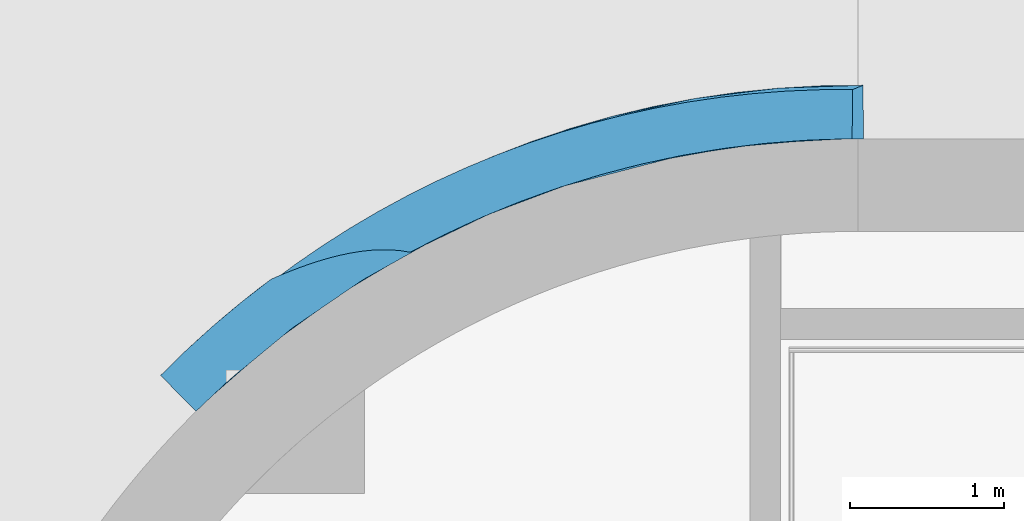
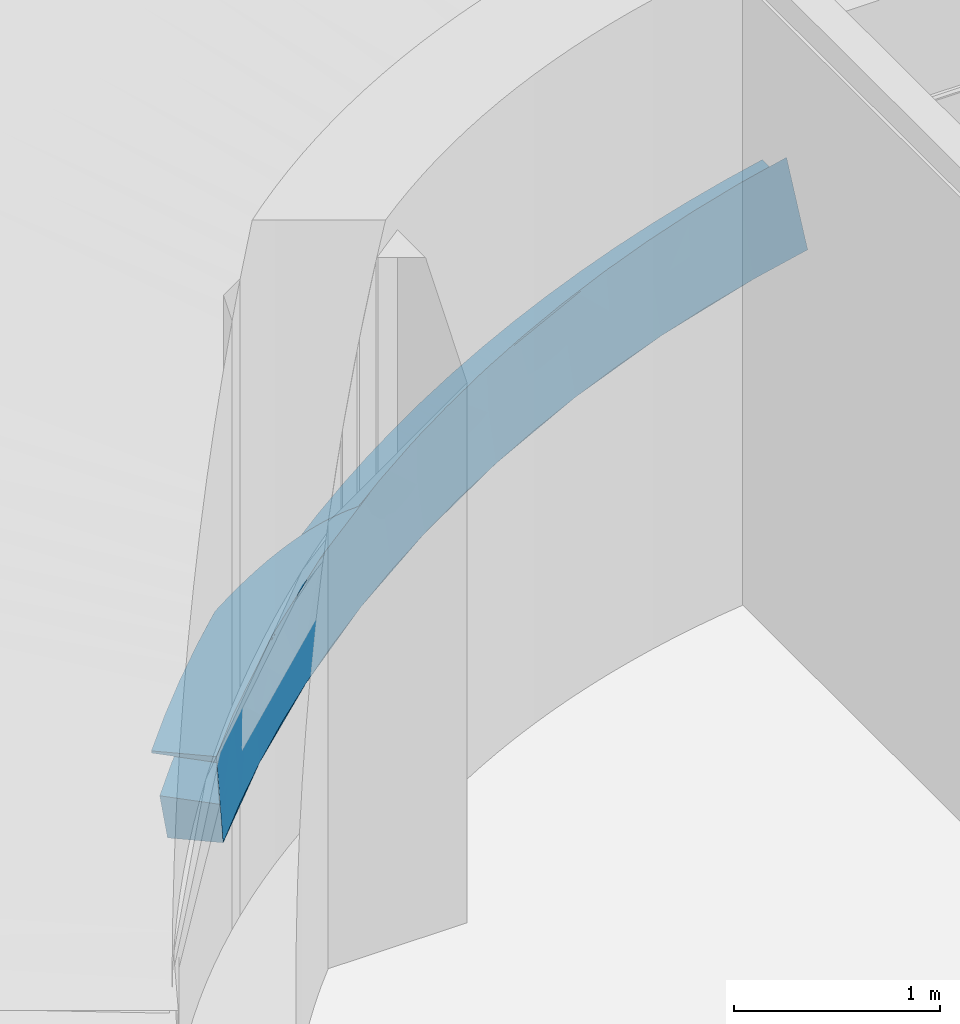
# One storey, part 18 of 30: 1 beam.
"""IFC2X3 building model written with IfcOpenShell, lengths in millimetres."""

from ifc_helpers import new_model, entity, si_unit, converted_unit, derived_unit, direction, frame, origin, place, context, subcontext, project, spatial, face_set, surface_model, material, material_list, type_object, element, save


model = new_model("IFC2X3")

# Units and contexts
model_context = context("Model", 3, precision=0.01, world=origin(), true_north=direction((6.123031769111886e-17, 1.0)))
body_context = subcontext(model_context, "Body", "Model", "MODEL_VIEW")
ifc_project = project(units=[si_unit("LENGTHUNIT", "METRE", prefix="MILLI"), si_unit("AREAUNIT", "SQUARE_METRE"), si_unit("VOLUMEUNIT", "CUBIC_METRE"), converted_unit("PLANEANGLEUNIT", "DEGREE", entity("IfcRatioMeasure", 0.017453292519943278), si_unit("PLANEANGLEUNIT", "RADIAN"), dimensions=[0, 0, 0, 0, 0, 0, 0]), si_unit("MASSUNIT", "GRAM", prefix="KILO"), derived_unit("MASSDENSITYUNIT", [(si_unit("MASSUNIT", "GRAM", prefix="KILO"), 1), (si_unit("LENGTHUNIT", "METRE"), -3)]), derived_unit("MOMENTOFINERTIAUNIT", [(si_unit("LENGTHUNIT", "METRE"), 4)]), si_unit("TIMEUNIT", "SECOND"), si_unit("FREQUENCYUNIT", "HERTZ"), si_unit("THERMODYNAMICTEMPERATUREUNIT", "DEGREE_CELSIUS"), derived_unit("THERMALTRANSMITTANCEUNIT", [(si_unit("MASSUNIT", "GRAM", prefix="KILO"), 1), (si_unit("THERMODYNAMICTEMPERATUREUNIT", "KELVIN"), -1), (si_unit("TIMEUNIT", "SECOND"), -3)]), derived_unit("VOLUMETRICFLOWRATEUNIT", [(si_unit("LENGTHUNIT", "METRE"), 3), (si_unit("TIMEUNIT", "SECOND"), -1)]), derived_unit("MASSFLOWRATEUNIT", [(si_unit("MASSUNIT", "GRAM", prefix="KILO"), 1), (si_unit("TIMEUNIT", "SECOND"), -1)]), derived_unit("ROTATIONALFREQUENCYUNIT", [(si_unit("TIMEUNIT", "SECOND"), -1)]), si_unit("ELECTRICCURRENTUNIT", "AMPERE"), si_unit("ELECTRICVOLTAGEUNIT", "VOLT"), si_unit("POWERUNIT", "WATT"), si_unit("FORCEUNIT", "NEWTON", prefix="KILO"), si_unit("ILLUMINANCEUNIT", "LUX"), si_unit("LUMINOUSFLUXUNIT", "LUMEN"), si_unit("LUMINOUSINTENSITYUNIT", "CANDELA"), derived_unit("USERDEFINED", [(si_unit("MASSUNIT", "GRAM", prefix="KILO"), -1), (si_unit("LENGTHUNIT", "METRE"), -2), (si_unit("TIMEUNIT", "SECOND"), 3), (si_unit("LUMINOUSFLUXUNIT", "LUMEN"), 1)]), derived_unit("SOUNDPOWERUNIT", [(si_unit("MASSUNIT", "GRAM", prefix="KILO"), 1), (si_unit("LENGTHUNIT", "METRE"), 2), (si_unit("TIMEUNIT", "SECOND"), -3)]), derived_unit("SOUNDPRESSUREUNIT", [(si_unit("MASSUNIT", "GRAM", prefix="KILO"), 1), (si_unit("LENGTHUNIT", "METRE"), -1), (si_unit("TIMEUNIT", "SECOND"), -2)]), derived_unit("LINEARVELOCITYUNIT", [(si_unit("LENGTHUNIT", "METRE"), 1), (si_unit("TIMEUNIT", "SECOND"), -1)]), si_unit("PRESSUREUNIT", "PASCAL"), derived_unit("USERDEFINED", [(si_unit("LENGTHUNIT", "METRE"), -2), (si_unit("MASSUNIT", "GRAM", prefix="KILO"), 1), (si_unit("TIMEUNIT", "SECOND"), -2)]), derived_unit("LINEARFORCEUNIT", [(si_unit("MASSUNIT", "GRAM", prefix="KILO"), 1), (si_unit("LENGTHUNIT", "METRE"), 1), (si_unit("TIMEUNIT", "SECOND"), -2), (si_unit("LENGTHUNIT", "METRE"), -1)]), derived_unit("PLANARFORCEUNIT", [(si_unit("MASSUNIT", "GRAM", prefix="KILO"), 1), (si_unit("LENGTHUNIT", "METRE"), 1), (si_unit("TIMEUNIT", "SECOND"), -2), (si_unit("LENGTHUNIT", "METRE"), -2)])], contexts=[model_context])

# Site, building, storey
site_placement = place(None, frame((-14167.972527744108, -657.2125860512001, 0.0)))
site = spatial("IfcSite", under=ifc_project, at=site_placement, Name="Default", CompositionType="ELEMENT")
building_placement = place(site_placement, origin())
building = spatial("IfcBuilding", under=site, at=building_placement, Name="Sample Building", CompositionType="ELEMENT")
storey_placement = place(building_placement, frame((0.0, 0.0, -10100.0)))
storey = spatial("IfcBuildingStorey", under=building, at=storey_placement, Name="지하2층", CompositionType="ELEMENT", Elevation=-10100.0)

# Beam
ifc_material = material(Name="KBIMS-콘크리트")
ifc_material_list = material_list([ifc_material, ifc_material])
beam_type = type_object("IfcBeamType", Name="BM111-철근콘크리트구조 보:BM110-철근 콘크리트구조 보_600 x 600_RAWG1", PredefinedType="BEAM", material=ifc_material_list)
beam_placement = place(storey_placement, frame((26243.005463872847, 27488.430430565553, 587.5267448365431), z_axis=(-0.19782992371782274, -0.08171122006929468, 0.9768247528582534), x_axis=(0.9802024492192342, -0.008201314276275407, 0.1978279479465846)))
element("IfcBeam", 1, at=beam_placement, inside=storey, type_object=beam_type, material=ifc_material, Name="BM111-철근콘크리트구조 보:BM110-철근 콘크리트구조 보_600 x 600_RAWG1", ObjectType="BM111-철근콘크리트구조 보:BM110-철근 콘크리트구조 보_600 x 600_RAWG1", context=body_context, shape_type="SurfaceModel", body=[
    surface_model("IfcFaceBasedSurfaceModel", [(115.89844163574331, 282.15257900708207, 554.5578061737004), (348.1741577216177, 49.93301144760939, 554.5578061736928), (331.0909516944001, 67.01208791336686, 254.54883192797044), (314.4205876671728, 83.6784221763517, -45.44219382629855), (115.89844163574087, 282.15257900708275, -45.442193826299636), (115.89844163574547, 282.1525790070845, 245.3746390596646), (169.19216849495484, 228.8717349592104, 239.53700427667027), (222.48651559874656, 175.59027081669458, 233.71070168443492), (275.78150321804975, 122.30816631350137, 227.89612493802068), (329.07714801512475, 69.02540479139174, 222.09368662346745), (337.2957603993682, 60.808779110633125, 367.6853974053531), (345.61146044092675, 52.495089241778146, 513.2787551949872), (299.6681853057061, 98.42725840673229, 518.4195493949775), (253.72524689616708, 144.3590909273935, 523.5666650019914), (207.78264967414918, 190.2905823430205, 528.7199145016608), (161.84038426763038, 236.22174202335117, 533.8791191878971), (115.8984416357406, 282.15257900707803, 539.0441072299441), (4658.274906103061, 2158.4539537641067, -45.44219382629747), (4658.274906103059, 2158.4539537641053, 298.5076997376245), (4657.6122164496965, 1839.953127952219, 324.1105561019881), (4657.631481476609, 1849.2122539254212, 439.33503170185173), (4657.650567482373, 1858.3853390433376, 554.5578061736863), (4657.649737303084, 1857.9863396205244, 554.5578061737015), (4657.614358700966, 1840.9827332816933, 341.812800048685), (4657.578370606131, 1823.6861935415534, 129.0666428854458), (4657.548600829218, 1809.3782916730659, -45.442193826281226), (850.834522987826, 913.5938636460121, 554.5578061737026), (658.2662295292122, 766.2864962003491, 554.5578061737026), (471.41091806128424, 611.7952236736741, 554.5578061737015), (290.53704002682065, 450.34192167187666, 554.5578061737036), (553.6039935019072, 241.5263315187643, 554.5578061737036), (989.3043099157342, 596.8422907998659, 554.5578061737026), (1455.143103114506, 912.6196211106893, 554.5578061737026), (1947.329482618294, 1186.2885981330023, 554.5578061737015), (2461.8581472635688, 1415.6221657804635, 554.5578061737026), (2994.541979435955, 1598.7540594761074, 554.5578061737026), (3541.0461188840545, 1734.193993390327, 554.5578061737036), (4096.923238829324, 1820.8397880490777, 554.5578061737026), (4384.857520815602, 1846.5486968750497, 554.5578061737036), (3841.570810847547, 1787.6904968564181, 554.5578061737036), (3304.8273307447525, 1682.3336586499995, 554.5578061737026), (2778.753127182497, 1531.2880798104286, 554.5578061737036), (2267.392230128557, 1335.7148757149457, 554.5578061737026), (1774.6755656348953, 1097.1174538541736, 554.5578061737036), (1707.194760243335, 1107.2957627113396, 554.5578061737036), (1639.0951944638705, 1111.9473377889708, 554.5578061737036), (1570.8327758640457, 1111.6072272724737, 554.5578061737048), (1502.7335989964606, 1106.865971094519, 554.5578061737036), (1435.0100235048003, 1098.297763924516, 554.5578061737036), (1367.789175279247, 1086.4218160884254, 554.5578061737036), (1301.137471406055, 1071.6876952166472, 554.5578061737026), (1235.0807853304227, 1054.4747630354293, 554.5578061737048), (1169.6241511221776, 1035.100026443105, 554.5578061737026), (1104.7585259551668, 1013.8265035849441, 554.5578061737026), (1040.4674019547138, 990.8722544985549, 554.5578061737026), (976.7306042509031, 966.4185792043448, 554.5578061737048), (913.5267211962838, 940.6168165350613, 554.5578061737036), (3542.898710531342, 2062.934805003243, -45.44250696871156), (3783.7389964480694, 2100.298237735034, 283.90480182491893), (4098.4953875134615, 2135.1125326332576, -45.44217082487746), (4439.036193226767, 2155.1560818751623, 294.0232745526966), (3351.46424079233, 2026.4847192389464, 279.4082935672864), (2995.7353513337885, 1942.475440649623, -45.44240166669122), (2461.19539085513, 1774.6532017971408, -45.44242765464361), (2301.6423479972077, 1714.3637620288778, 272.7671212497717), (2507.0847550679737, 1791.10229239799, 273.8078573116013), (2098.946139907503, 1630.6381833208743, 271.750554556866), (2715.033101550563, 1860.7610007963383, 274.9321571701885), (2925.244887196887, 1923.2564503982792, 276.1996831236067), (4001.5104242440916, 2126.062430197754, 286.7741917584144), (4220.0294215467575, 2144.35462633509, 290.12915367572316), (3137.473283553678, 1978.5192903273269, 277.67158112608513), (3566.9725585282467, 2067.0924001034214, 281.4669068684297), (973.5431699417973, 1001.6202708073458, -45.44237550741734), (1134.8895648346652, 1110.8894253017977, 264.9585396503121), (1446.2138116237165, 1302.4203638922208, -45.44186739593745), (1702.7485134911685, 1442.6178240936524, 269.5509936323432), (1943.3654897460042, 1560.757102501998, -45.44187825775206), (776.5353939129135, 858.1217664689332, 260.3553552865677), (528.9696117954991, 660.6616917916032, -45.44189005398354), (273.55073955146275, 434.5346312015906, 249.98452519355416), (436.33801369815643, 581.4392890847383, 253.97920443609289), (604.0642395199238, 722.6923177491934, 257.4172631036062), (1509.709418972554, 1338.5459663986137, 268.25155430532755), (1899.2385356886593, 1540.020581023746, 270.6975448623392), (953.5456741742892, 987.5742249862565, 262.8497793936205), (1320.3498667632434, 1227.9280049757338, 266.73966247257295), (318.2932578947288, 475.9266330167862, -45.44219382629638), (747.5264032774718, 836.005511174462, -45.44219382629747), (1206.5877095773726, 1157.1917634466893, -45.44219382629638), (1691.9638417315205, 1437.0272542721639, -45.44219382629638), (2199.940069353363, 1673.3703179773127, -45.44219382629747), (2726.6286966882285, 1864.4121495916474, -45.4421938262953), (3267.9988163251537, 2008.6906481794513, -45.44219382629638), (3819.907158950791, 2105.101606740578, -45.44219382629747), (4378.12980304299, 2152.907163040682, -45.44219382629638), (4622.236591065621, 1809.087705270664, -45.44219382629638), (4343.54516080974, 1800.6568786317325, -45.44219382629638), (3788.0906887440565, 1747.0602550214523, -45.44219382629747), (3238.9160704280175, 1644.8826644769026, -45.44219382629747), (2700.424531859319, 1494.9433564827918, -45.44219382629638), (2176.9336431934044, 1298.4445290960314, -45.44219382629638), (1672.6407009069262, 1056.961689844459, -45.44219382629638), (1191.5890743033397, 772.4310234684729, -45.44219382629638), (737.635786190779, 447.1338677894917, -45.44219382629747), (3539.1218381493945, 1722.8918463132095, 295.2953053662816), (3264.0229256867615, 1663.260912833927, 289.71617734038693), (3373.779479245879, 1688.4096305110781, 554.5576901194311), (3572.12143149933, 1740.7822363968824, 554.5581314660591), (3842.388656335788, 1781.8747606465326, 554.5582452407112), (2977.095708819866, 1583.6621486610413, 554.5575653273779), (3175.4376610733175, 1636.0347545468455, 554.5580066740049), (2991.7529546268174, 1591.6577498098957, 284.56506643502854), (2457.8358099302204, 1413.0918347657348, 275.069497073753), (2197.245716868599, 1306.479539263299, 270.4822349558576), (1941.573556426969, 1188.5798177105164, 265.84263741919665), (2021.0330935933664, 1216.416583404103, 554.557975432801), (2722.8465740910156, 1508.214686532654, 279.72321992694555), (2523.0727999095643, 1433.5007764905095, 554.5580480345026), (4376.265720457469, 1829.027982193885, 315.72161271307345), (4385.153065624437, 1840.677229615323, 554.5577802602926), (4112.6557470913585, 1822.9695549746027, 554.5576011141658), (3816.5242766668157, 1770.4460986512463, 301.41878655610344), (4095.738462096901, 1805.8442847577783, 308.19226251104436), (1127.1984140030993, 697.9076766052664, 539.9029700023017), (1208.8915344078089, 769.5403129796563, 250.43700409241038), (977.6575003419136, 608.979745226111, 244.41694344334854), (1337.7210649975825, 839.4398855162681, 545.1543301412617), (1446.9267457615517, 919.8499009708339, 255.93662828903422), (753.6598099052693, 438.4797963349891, 237.76284428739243), (922.4116337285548, 548.2005904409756, 534.1744353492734), (531.3159790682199, 225.23598053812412, 520.9452993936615), (537.3287458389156, 258.3775487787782, 230.35936660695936), (723.6822816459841, 390.5592335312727, 527.8828808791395), (1691.3076077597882, 1059.6203995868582, 261.0333619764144), (1553.6574934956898, 972.579643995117, 550.0107572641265), (1179.827405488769, 733.2895961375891, 541.2163920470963), (471.5396207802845, 611.6077582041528, 548.0845772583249), (675.5900643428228, 349.23013945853, 526.1481740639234), (1391.7051146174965, 872.7248013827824, 546.3681529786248), (484.8892103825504, 182.05067912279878, 519.0285840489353), (231.76250460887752, 394.8389748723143, 542.3708500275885), (438.4625567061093, 138.86542521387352, 517.1124365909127), (512.4079020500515, 646.7196482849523, 548.9355339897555), (773.3652422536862, 429.9701711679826, 529.455890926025), (595.3174256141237, 715.5637334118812, 550.5111496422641), (553.8625967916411, 681.1428258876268, 549.7229628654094), (764.5543697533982, 849.018983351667, 553.3159551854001), (973.608391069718, 585.6268063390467, 535.6069004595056), (807.6942318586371, 881.307359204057, 553.9365217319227), (1024.805033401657, 623.0529747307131, 537.038797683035), (627.4979811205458, 307.8987753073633, 524.4142251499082), (430.67135858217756, 576.4935505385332, 547.2338105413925), (390.39868525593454, 540.6975548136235, 546.3176736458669), (1285.0897941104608, 804.057984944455, 543.8413681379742), (1604.9629855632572, 1111.7779294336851, 554.5581957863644), (1647.647999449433, 1025.542357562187, 551.944414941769), (1076.0017716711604, 660.4815082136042, 538.4710727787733), (1730.5934824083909, 1103.7654275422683, 554.5576509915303), (1727.0401230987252, 1070.2753599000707, 553.5777450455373), (1600.6526985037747, 999.0598182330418, 550.9773971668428), (350.1282913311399, 504.90154012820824, 545.401076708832), (579.4057828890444, 266.56736364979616, 522.6797083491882), (192.71928090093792, 357.7091142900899, 541.3125461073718), (1499.6733288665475, 939.2946806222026, 548.7963665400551), (1445.6892792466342, 906.0097647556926, 547.582543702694), (270.8034679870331, 431.9665368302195, 543.4298040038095), (1232.4586573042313, 768.6738142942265, 542.5291640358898), (637.3452209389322, 749.282184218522, 551.2402767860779), (872.7287881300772, 508.78970031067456, 532.6019931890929), (679.3729971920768, 783.0029526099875, 551.9692139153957), (143.19957910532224, 309.0056272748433, 539.8500006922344), (398.9773656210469, 102.13532724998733, 515.4817172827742), (823.0458084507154, 469.3810802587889, 531.0287931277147), (1742.919045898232, 1079.2224390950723, 553.9045082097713), (310.4669523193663, 468.43516403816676, 544.414831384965), (1711.1613153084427, 1061.3283282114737, 553.2515497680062), (1673.1446387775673, 1109.6206870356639, 554.5582191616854), (721.9625342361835, 816.0121362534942, 552.6427195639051), (1679.4057300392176, 1043.4364684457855, 552.5973733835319), (4306.133925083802, 1823.2332285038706, 313.83932212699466), (4274.780602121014, 2147.055018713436, 291.10308284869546), (3297.9664392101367, 2014.4939176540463, 278.97378401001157), (3332.798803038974, 1678.1674779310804, 291.11082433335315), (3401.572381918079, 1693.0763795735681, 292.50574135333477), (3244.4687717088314, 2002.5008459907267, 278.54003235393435), (4236.00203377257, 1817.4361097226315, 311.956653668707), (4165.399174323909, 2139.783355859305, 289.2908116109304), (4165.870238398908, 1811.641356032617, 310.07436308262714), (4585.035183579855, 1837.1339818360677, 321.9466338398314), (4548.656853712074, 2156.804308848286, 296.2652599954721), (4516.939843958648, 1834.491434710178, 319.91552562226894), (4110.768831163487, 2135.2097202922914, 288.4520916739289), (4582.02447071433, 2157.307566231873, 296.94835711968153), (4657.876625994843, 1967.35557683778, 313.88302951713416), (921.6569667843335, 566.3547793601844, 242.75379064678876), (690.2998167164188, 790.4070421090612, 258.8863091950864), (865.658597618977, 523.7297470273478, 241.08960992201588), (3886.3277942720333, 1779.2956333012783, 303.1120135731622), (3838.1824567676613, 2106.7387135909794, 284.6222237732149), (3677.8219847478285, 1746.6678469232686, 298.35765493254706), (3621.1630905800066, 2075.393313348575, 282.0769420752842), (2767.585999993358, 1876.383680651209, 275.24884972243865), (2857.298691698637, 1549.9350926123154, 282.1447521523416), (2924.5258231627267, 1570.7964212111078, 283.35490929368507), (820.7890749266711, 890.4848597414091, 260.97858932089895), (3059.820428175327, 1609.5573698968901, 285.8527971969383), (3127.8878826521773, 1627.4593075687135, 287.1403379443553), (3031.359142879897, 1950.8878941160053, 276.9359160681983), (3190.9710851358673, 1990.5100919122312, 278.10609068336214), (645.4931956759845, 348.42870579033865, 234.0616194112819), (478.27020227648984, 616.7519858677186, 254.8389355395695), (1273.9848248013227, 1198.667792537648, 266.29457124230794), (1227.6197828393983, 1169.4075800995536, 265.8494800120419), (3470.3459798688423, 1707.9829636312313, 293.9008483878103), (3459.2184667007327, 2046.7874246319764, 280.43797916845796), (3405.3424454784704, 2036.6348799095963, 279.92271741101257), (3729.5461849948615, 2091.9973434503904, 283.295226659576), (3747.1742704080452, 1758.5569633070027, 299.88799072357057), (865.0404765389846, 922.8479719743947, 261.60228339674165), (1035.4654150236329, 649.1193006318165, 245.92197914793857), (699.5753630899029, 393.4542605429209, 235.91246187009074), (2559.071219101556, 1808.516371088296, 274.0888108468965), (2656.593907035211, 1484.4345648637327, 278.5598836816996), (4384.285127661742, 2152.455737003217, 293.0499132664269), (4446.602782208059, 1831.759708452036, 317.81856916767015), (3608.471978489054, 1734.7787115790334, 296.8268591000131), (3513.0943729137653, 2056.9399218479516, 280.9526730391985), (1850.1160349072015, 1515.6693123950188, 270.41095455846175), (2005.4909979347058, 1218.0547409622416, 267.00250984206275), (1800.9935150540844, 1491.320361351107, 270.1241742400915), (4658.142442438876, 2094.7546893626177, 303.637068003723), (4658.0088640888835, 2031.0541738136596, 308.76264533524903), (4657.745881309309, 1903.6543107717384, 318.9991684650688), (909.2941575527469, 955.2110652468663, 262.2255174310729), (1093.2756091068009, 689.2588370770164, 247.42655481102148), (4329.533947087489, 2149.7553446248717, 292.07598409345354), (2872.691988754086, 1907.6337705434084, 275.8829905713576), (170.59047064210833, 335.0163752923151, 246.9737163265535), (382.7985472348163, 117.87076436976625, 224.22568282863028), (4025.9349444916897, 1796.9947501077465, 306.4990354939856), (3084.4151310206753, 1964.7036254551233, 277.30426256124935), (354.94442459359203, 507.98814268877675, 251.98205375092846), (591.4109132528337, 303.4031035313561, 232.2102090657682), (1268.4003467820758, 807.1165511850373, 251.81200514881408), (1044.2164222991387, 1049.2318108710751, 263.90410559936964), (1089.5530510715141, 1080.0606418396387, 264.43160656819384), (1753.875780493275, 1091.8596486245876, 262.23524133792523), (1557.970902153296, 1364.563916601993, 268.57606910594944), (3675.35578702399, 2083.6941601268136, 282.68594935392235), (2790.071445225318, 1529.0737165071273, 280.9340271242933), (2663.046541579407, 1843.344557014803, 274.6508257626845), (2590.3412399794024, 1460.6544431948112, 277.39654743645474), (2455.7235882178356, 1771.9170851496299, 273.5478358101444), (2392.6871326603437, 1386.440508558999, 273.9227690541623), (2820.1389943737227, 1892.0087255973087, 275.5659201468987), (2353.0035148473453, 1733.548969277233, 273.0271427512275), (1949.1654319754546, 1562.6755609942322, 270.9607497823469), (2069.408439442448, 1247.5296642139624, 268.16238226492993), (1606.2301059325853, 1390.5818857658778, 268.9010439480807), (1654.4893097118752, 1416.5998549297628, 269.2260187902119), (2262.3920956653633, 1333.133202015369, 271.6292330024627), (2149.6207905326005, 1651.5695851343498, 272.0047231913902), (2250.9678123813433, 1693.4324077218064, 272.51352050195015), (1879.0076821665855, 1156.3382321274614, 264.6404880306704), (1751.8710142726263, 1466.9690927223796, 269.8375839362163), (2133.325880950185, 1277.0045874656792, 269.32225468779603), (1999.092347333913, 1585.328223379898, 271.22414471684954), (1508.0209125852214, 954.7919913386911, 257.2115151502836), (1367.6892855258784, 1255.580797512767, 267.118318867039), (998.8821879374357, 1018.403008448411, 263.37671247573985), (1151.083504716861, 729.4007100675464, 248.9314005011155), (562.1321659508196, 687.3796684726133, 256.55809988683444), (647.1832348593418, 756.5485354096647, 258.15193507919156), (809.6580640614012, 481.1047811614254, 239.42645712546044), (1387.417952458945, 882.2713451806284, 254.5618172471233), (1181.254721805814, 1140.149685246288, 265.40419876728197), (1327.909140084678, 844.6951069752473, 253.18681619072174), (194.72453798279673, 358.34469985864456, 247.6792763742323), (314.2487313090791, 471.26021867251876, 250.98315445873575), (485.2645135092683, 211.03863910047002, 228.2933721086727), (1462.3701342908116, 1310.89090378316, 267.87365581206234), (1415.0308496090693, 1283.2358411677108, 267.4957573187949), (1630.2135750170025, 1024.6760391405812, 259.7592330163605), (1569.117243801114, 989.7340152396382, 258.48537408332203), (2978.303154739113, 1937.0721627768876, 276.5675695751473), (2049.019243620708, 1607.9832033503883, 271.48734963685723), (234.1387784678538, 396.43965604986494, 248.83167076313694), (433.20254150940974, 163.7020280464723, 226.22672755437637), (3947.0669639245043, 2119.621954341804, 286.0567698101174), (3956.1314268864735, 1788.1452154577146, 304.8058084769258), (520.2022758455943, 652.0646351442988, 255.6980987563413), (733.4186779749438, 824.2655298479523, 259.6202232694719), (2327.5407538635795, 1359.7868458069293, 272.7757710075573), (2200.295441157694, 1672.500986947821, 272.2588918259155), (1816.441673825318, 1124.0989166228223, 263.4375807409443), (4056.1407674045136, 2130.636065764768, 287.6129116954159), (395.64002194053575, 544.7137016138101, 252.98057517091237), (4493.846571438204, 2155.9813779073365, 295.1444562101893), (3892.623503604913, 2113.1814784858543, 285.3393478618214), (2611.06007754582, 1825.9304783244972, 274.36987222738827), (3195.9554712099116, 1645.358975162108, 288.42863659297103), (2524.088572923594, 1436.874321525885, 276.2332111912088), (2404.3624213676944, 1752.7318779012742, 273.2878143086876), (115.89801711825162, 282.1524276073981, 542.4030843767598), (781.4816873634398, 860.5417341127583, 554.5581884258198), (790.8673324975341, 868.7124434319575, 553.6944620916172), (115.89747084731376, 282.1525014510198, 545.7622305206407), (4065.3096196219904, 1779.9670261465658, -45.442228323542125), (411.069385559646, 108.59327371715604, 554.5579773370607), (4376.964429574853, 1845.6288401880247, 554.5580598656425), (2436.5386697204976, 1402.4233117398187, -45.44243906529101), (2726.1982307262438, 1513.065556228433, 554.5579656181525), (2968.0622418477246, 1575.8160529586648, -45.44215071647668), (3266.3433058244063, 1672.512957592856, 554.5578919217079), (3512.4406718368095, 1702.0018392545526, -45.44180208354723), (3818.0935244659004, 1783.6698201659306, 554.5582162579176), (1698.1877610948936, 1054.8653817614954, 554.5579909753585), (1428.963793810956, 919.9427662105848, -45.44245610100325), (1922.130588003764, 1183.2143696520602, -45.44225837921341), (2202.057897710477, 1306.6214330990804, 554.5578566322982), (521.9668939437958, 270.0015207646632, -45.441798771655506), (960.9918773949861, 614.7224321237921, -45.4421282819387), (767.4588773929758, 423.9530203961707, 554.5580129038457), (1218.687676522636, 759.8424350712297, 554.5580301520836), (473.96588603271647, 167.25254709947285, 554.558049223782)], [face_set([[[0, 1, 2, 3, 4, 5, 6, 7, 8, 9, 10, 11, 12, 13, 14, 15, 16]], [[17, 18, 19, 20, 21, 22, 23, 24, 25]], [[26, 27, 28, 29, 0, 1, 30, 31, 32, 33, 34, 35, 36, 37, 22, 21, 38, 39, 40, 41, 42, 43, 44, 45, 46, 47, 48, 49, 50, 51, 52, 53, 54, 55, 56]], [[57, 58, 59]], [[59, 60, 17]], [[61, 57, 62]], [[63, 64, 65]], [[64, 63, 66]], [[65, 67, 63]], [[63, 67, 62]], [[62, 67, 68]], [[69, 70, 59]], [[60, 18, 17]], [[70, 60, 59]], [[68, 71, 62]], [[72, 58, 57]], [[61, 72, 57]], [[71, 61, 62]], [[69, 59, 58]], [[73, 74, 75]], [[75, 76, 77]], [[78, 73, 79]], [[4, 5, 80]], [[81, 79, 80]], [[80, 79, 4]], [[79, 81, 82]], [[83, 76, 75]], [[76, 84, 77]], [[84, 66, 77]], [[78, 85, 73]], [[74, 86, 75]], [[73, 85, 74]], [[86, 83, 75]], [[79, 82, 78]], [[77, 66, 63]], [[4, 87, 79, 88, 73, 89, 75, 90, 77, 91, 63, 92, 62, 93, 57, 94, 59, 95, 17, 25, 96, 97, 98, 99, 100, 101, 102, 103, 104, 3]], [[105, 106, 107]], [[108, 109, 105]], [[110, 111, 112]], [[113, 114, 42]], [[115, 43, 116]], [[117, 41, 110]], [[118, 117, 113]], [[115, 116, 114]], [[113, 42, 118]], [[41, 117, 118]], [[19, 119, 20]], [[21, 20, 119]], [[119, 120, 21]], [[109, 121, 122]], [[105, 107, 108]], [[121, 123, 122]], [[121, 120, 123]], [[124, 125, 126]], [[125, 127, 128]], [[117, 110, 112]], [[129, 130, 126]], [[131, 132, 9]], [[131, 9, 10]], [[129, 132, 133]], [[11, 131, 10]], [[115, 134, 43]], [[105, 109, 122]], [[135, 43, 134]], [[128, 135, 134]], [[116, 42, 114]], [[130, 129, 133]], [[112, 111, 106]], [[135, 128, 127]], [[127, 125, 124]], [[123, 120, 119]], [[106, 111, 107]], [[124, 126, 130]], [[132, 131, 133]], [[136, 55, 124]], [[133, 137, 138]], [[51, 139, 50]], [[140, 141, 142]], [[127, 51, 52]], [[143, 137, 133]], [[144, 145, 146]], [[147, 148, 149]], [[55, 136, 54]], [[150, 149, 148]], [[151, 152, 153]], [[154, 127, 52]], [[124, 55, 56]], [[155, 46, 156]], [[157, 124, 56]], [[158, 44, 159]], [[147, 130, 148]], [[46, 160, 156]], [[161, 131, 162]], [[47, 48, 135]], [[141, 163, 142]], [[164, 49, 165]], [[164, 135, 48]], [[146, 143, 133]], [[150, 26, 149]], [[53, 154, 52]], [[135, 160, 47]], [[140, 131, 166]], [[161, 162, 153]], [[146, 133, 144]], [[141, 140, 166]], [[154, 53, 167]], [[136, 167, 54]], [[168, 169, 170]], [[163, 171, 172]], [[139, 165, 50]], [[173, 168, 145]], [[152, 151, 138]], [[171, 16, 15]], [[151, 153, 162]], [[156, 45, 155]], [[174, 43, 158]], [[161, 175, 131]], [[176, 44, 177]], [[130, 147, 178]], [[139, 51, 127]], [[172, 142, 163]], [[176, 177, 179]], [[178, 170, 130]], [[54, 167, 53]], [[131, 175, 166]], [[137, 152, 138]], [[50, 165, 49]], [[159, 174, 158]], [[171, 13, 172]], [[12, 11, 172]], [[157, 26, 150]], [[49, 164, 48]], [[47, 160, 46]], [[45, 156, 179]], [[14, 171, 15]], [[171, 14, 13]], [[179, 177, 45]], [[44, 176, 159]], [[26, 157, 56]], [[173, 145, 144]], [[12, 172, 13]], [[169, 168, 173]], [[169, 130, 170]], [[180, 181, 70]], [[182, 183, 184]], [[185, 183, 182]], [[186, 187, 188]], [[189, 190, 191]], [[123, 188, 192]], [[193, 189, 194]], [[195, 196, 197]], [[198, 199, 58]], [[200, 201, 72]], [[202, 203, 204]], [[78, 205, 126]], [[67, 203, 202]], [[206, 207, 208]], [[209, 106, 185]], [[210, 81, 211]], [[212, 213, 128, 86]], [[214, 215, 216]], [[122, 217, 218]], [[205, 219, 220]], [[221, 210, 211]], [[117, 222, 223]], [[193, 190, 189]], [[224, 225, 60]], [[226, 227, 105]], [[228, 115, 229]], [[228, 230, 115]], [[231, 193, 232]], [[233, 189, 19]], [[219, 234, 235]], [[180, 236, 181]], [[112, 237, 204]], [[7, 238, 239]], [[123, 69, 240]], [[241, 208, 207]], [[242, 243, 132]], [[244, 245, 125]], [[245, 246, 244]], [[247, 248, 134]], [[200, 218, 249]], [[234, 85, 235]], [[61, 214, 216]], [[65, 223, 222]], [[250, 67, 251]], [[252, 65, 253]], [[229, 84, 228]], [[113, 64, 254]], [[204, 237, 255, 202]], [[113, 256, 64]], [[257, 84, 258]], [[259, 248, 247, 260]], [[66, 261, 262]], [[254, 64, 263]], [[264, 265, 76]], [[257, 266, 267]], [[86, 268, 269]], [[85, 270, 271]], [[189, 233, 194]], [[6, 238, 7]], [[126, 220, 205]], [[272, 82, 129]], [[8, 7, 239]], [[193, 194, 232]], [[273, 274, 82]], [[239, 9, 8]], [[275, 276, 277]], [[239, 238, 278]], [[80, 279, 280]], [[197, 273, 274]], [[115, 230, 265]], [[281, 282, 283, 83]], [[213, 275, 276]], [[251, 117, 250]], [[282, 269, 284]], [[270, 245, 125]], [[227, 226, 72]], [[206, 208, 285]], [[114, 66, 286]], [[66, 114, 261]], [[287, 80, 288]], [[240, 289, 290]], [[280, 288, 80]], [[68, 206, 285]], [[129, 291, 272]], [[288, 239, 278]], [[132, 280, 279]], [[238, 6, 5]], [[126, 78, 195]], [[195, 196, 292]], [[231, 18, 193]], [[180, 70, 186]], [[246, 74, 244]], [[293, 294, 262]], [[295, 264, 76]], [[123, 296, 69]], [[292, 78, 195]], [[297, 81, 243]], [[191, 190, 298]], [[236, 180, 119]], [[198, 299, 199]], [[290, 299, 198]], [[200, 249, 201]], [[215, 214, 105]], [[222, 117, 300]], [[227, 215, 105]], [[298, 60, 225]], [[224, 236, 119]], [[258, 84, 229]], [[251, 300, 117]], [[207, 301, 241]], [[185, 106, 183]], [[123, 192, 296]], [[277, 74, 244]], [[115, 265, 264]], [[128, 268, 86]], [[284, 269, 268]], [[235, 271, 85]], [[125, 270, 271]], [[82, 274, 129]], [[273, 196, 197]], [[256, 302, 303]], [[279, 242, 132]], [[134, 83, 283]], [[288, 278, 287]], [[252, 253, 302]], [[261, 293, 262]], [[113, 302, 256]], [[303, 302, 253]], [[266, 286, 267]], [[295, 76, 260]], [[248, 83, 134]], [[203, 67, 250]], [[112, 68, 237]], [[235, 219, 220]], [[277, 74, 276]], [[128, 213, 275]], [[221, 291, 129]], [[211, 291, 221]], [[106, 71, 301]], [[106, 209, 71]], [[200, 72, 226]], [[217, 122, 58]], [[217, 249, 218]], [[187, 186, 70]], [[187, 192, 188]], [[210, 243, 81]], [[243, 242, 297]], [[198, 58, 122]], [[206, 68, 112]], [[214, 61, 184]], [[223, 65, 252]], [[225, 224, 119]], [[191, 298, 225]], [[301, 71, 241]], [[289, 240, 69]], [[289, 299, 290]], [[283, 282, 284]], [[263, 293, 254]], [[263, 294, 293]], [[266, 257, 258]], [[114, 286, 266]], [[295, 260, 247]], [[184, 61, 182]], [[163, 16, 304]], [[147, 27, 305]], [[145, 143, 28]], [[170, 145, 27]], [[306, 147, 305]], [[304, 307, 166]], [[27, 147, 170]], [[145, 28, 27]], [[143, 29, 28]], [[305, 26, 306]], [[29, 307, 0]], [[304, 166, 163]], [[152, 161, 29]], [[29, 161, 307]], [[166, 307, 161]], [[152, 29, 143]], [[25, 96, 24]], [[308, 98, 37]], [[96, 97, 23]], [[2, 1, 309]], [[308, 310, 97]], [[100, 311, 312]], [[99, 313, 314]], [[315, 99, 36]], [[100, 35, 313]], [[98, 315, 316]], [[24, 96, 23]], [[97, 22, 23]], [[310, 22, 97]], [[37, 310, 308]], [[99, 314, 36]], [[316, 37, 98]], [[36, 316, 315]], [[313, 35, 314]], [[100, 312, 35]], [[311, 34, 312]], [[317, 102, 318]], [[102, 33, 319]], [[320, 101, 319]], [[318, 103, 32]], [[30, 321, 3]], [[31, 322, 104]], [[321, 323, 104]], [[103, 322, 324]], [[325, 3, 2]], [[32, 317, 318]], [[320, 34, 101]], [[33, 320, 319]], [[317, 33, 102]], [[2, 309, 325]], [[30, 3, 325]], [[31, 324, 322]], [[323, 31, 104]], [[30, 323, 321]], [[32, 103, 324]], [[101, 34, 311]]])]),
])

save(model, "model.ifc")
